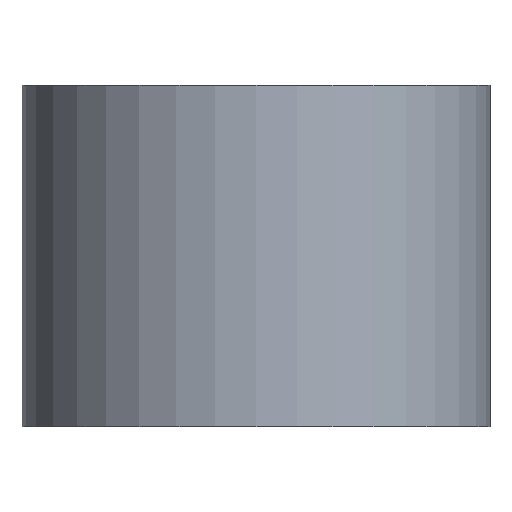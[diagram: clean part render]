
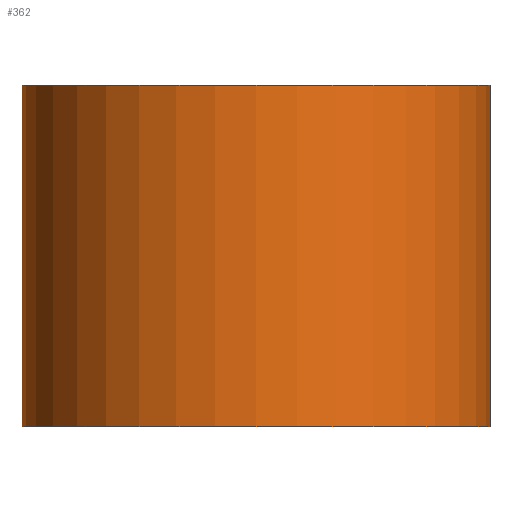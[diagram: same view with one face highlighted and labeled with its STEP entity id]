
A CAD part, front view. The second image highlights one B-rep face of the part: STEP entity #362.
In plain terms, the highlighted cylindrical face has radius 44.85 mm (diameter 89.7 mm), a full revolution.
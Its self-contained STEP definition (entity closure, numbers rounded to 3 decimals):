
#68=FACE_OUTER_BOUND('',#98,.T.);
#98=EDGE_LOOP('',(#305,#306,#307,#308));
#126=LINE('',#658,#140);
#140=VECTOR('',#556,44.85);
#167=CIRCLE('',#431,44.85);
#168=CIRCLE('',#432,44.85);
#195=VERTEX_POINT('',#655);
#196=VERTEX_POINT('',#657);
#236=EDGE_CURVE('',#195,#195,#167,.T.);
#237=EDGE_CURVE('',#195,#196,#126,.T.);
#238=EDGE_CURVE('',#196,#196,#168,.T.);
#305=ORIENTED_EDGE('',*,*,#236,.F.);
#306=ORIENTED_EDGE('',*,*,#237,.T.);
#307=ORIENTED_EDGE('',*,*,#238,.T.);
#308=ORIENTED_EDGE('',*,*,#237,.F.);
#336=CYLINDRICAL_SURFACE('',#430,44.85);
#362=ADVANCED_FACE('',(#68),#336,.T.);
#430=AXIS2_PLACEMENT_3D('',#654,#552,#553);
#431=AXIS2_PLACEMENT_3D('',#656,#554,#555);
#432=AXIS2_PLACEMENT_3D('',#659,#557,#558);
#552=DIRECTION('center_axis',(0.,0.,1.));
#553=DIRECTION('ref_axis',(1.,0.,0.));
#554=DIRECTION('center_axis',(0.,0.,1.));
#555=DIRECTION('ref_axis',(1.,0.,0.));
#556=DIRECTION('',(0.,0.,-1.));
#557=DIRECTION('center_axis',(0.,0.,1.));
#558=DIRECTION('ref_axis',(1.,0.,0.));
#654=CARTESIAN_POINT('Origin',(0.,183.269,0.));
#655=CARTESIAN_POINT('',(-44.85,183.269,65.5));
#656=CARTESIAN_POINT('Origin',(0.,183.269,65.5));
#657=CARTESIAN_POINT('',(-44.85,183.269,0.));
#658=CARTESIAN_POINT('',(-44.85,183.269,0.));
#659=CARTESIAN_POINT('Origin',(0.,183.269,0.));
